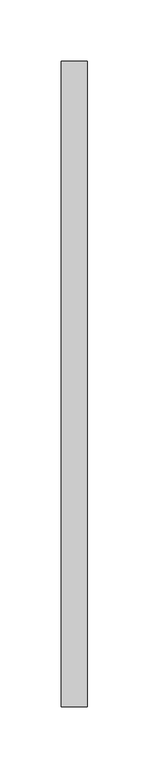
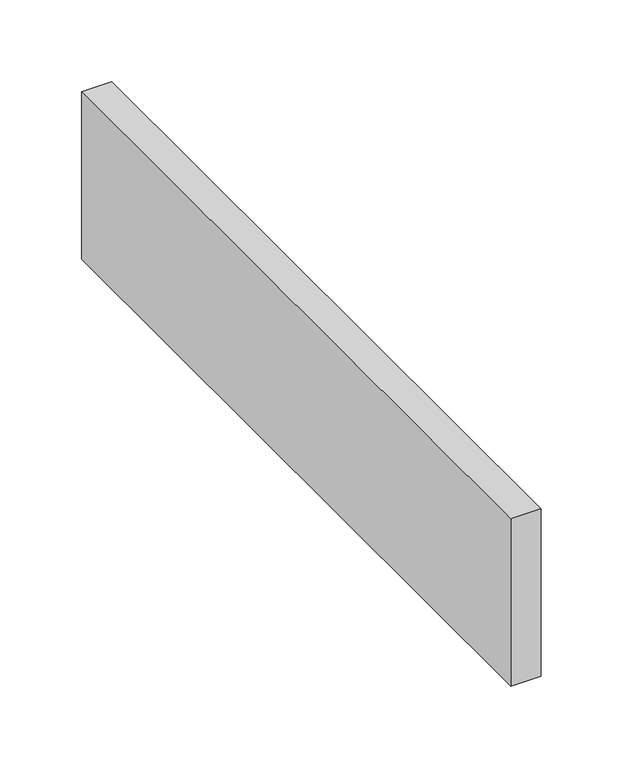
"""IFC4 building model written with IfcOpenShell, lengths in millimetres: duct fitting geometry, MEP_15.03 Injerto Conducte : Mínimo."""

from ifc_helpers import new_model, si_unit, frame, origin, place, context, project, spatial, polyline, outline, extrude, source, transform, mapped, element, save


def duct_fitting_2a859866(model_context):
    return source(origin(), model_context, "Body", "SweptSolid", [
        extrude(outline(polyline([(-6.096, 262.5), (15.0, 262.5), (15.0, -262.5), (-6.096, -262.5), (-6.096, 262.5)])), frame((0.0, 0.0, -62.5), z_axis=(0.0, 0.0, 1.0), x_axis=(1.0, 0.0, 0.0)), (0.0, 0.0, 1.0), 125.0),
    ])


if __name__ == "__main__":
    model = new_model("IFC4")
    model_context = context("Model", 3, world=origin())
    ifc_project = project(units=[si_unit("LENGTHUNIT", "METRE", prefix="MILLI")], contexts=[model_context])
    site = spatial("IfcSite", under=ifc_project)
    building = spatial("IfcBuilding", under=site)
    placement = place(None, origin())
    duct_fitting_shape = duct_fitting_2a859866(model_context)
    element("IfcDuctFitting", 1, ObjectType="MEP_15.03 Injerto Conducte : Mínimo", at=placement, inside=building, context=model_context, shape_type="MappedRepresentation", body=[
        mapped(duct_fitting_shape, transform((0.0, 0.0, 0.0), x_axis=(1.0, 0.0, 0.0), y_axis=(0.0, 1.0, 0.0), z_axis=(0.0, 0.0, 1.0))),
    ])
    save(model, "model.ifc")
